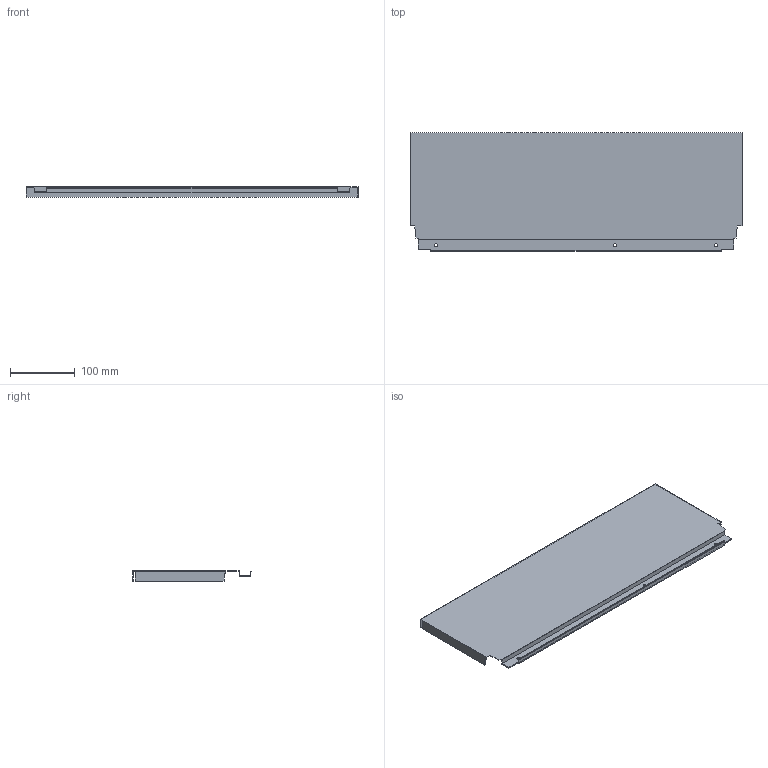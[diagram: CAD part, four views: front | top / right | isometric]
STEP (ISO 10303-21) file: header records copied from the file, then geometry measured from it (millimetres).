
FILE_DESCRIPTION (( 'STEP AP214' ), '1' );
FILE_NAME ('_DWD_XP Stahlrückwand_H182_KAB600_S19.step', '2010-07-08T12:58:06', ( 'grass' ), ( '' ), 'SwSTEP 2.0', 'SolidWorks 2010', '' );
FILE_SCHEMA (( 'AUTOMOTIVE_DESIGN' ));
Length unit declared in the file: millimetre
Products named in the file (1): _DWD_XP Stahlrückwand_H182_KAB600_S19
Bounding box: 511 x 182.49 x 16 mm (x, y, z)
Volume: 96422.5 mm3; surface area: 223766.3 mm2
Topology: 1 solids, 1 shells, 46 faces, 132 edges, 88 vertices
Faces by surface type: plane 40, cylinder 6
Entity records: 1534 total; most frequent: CARTESIAN_POINT 267, ORIENTED_EDGE 264, DIRECTION 238, EDGE_CURVE 132, VECTOR 120, LINE 120, VERTEX_POINT 88, AXIS2_PLACEMENT_3D 59
